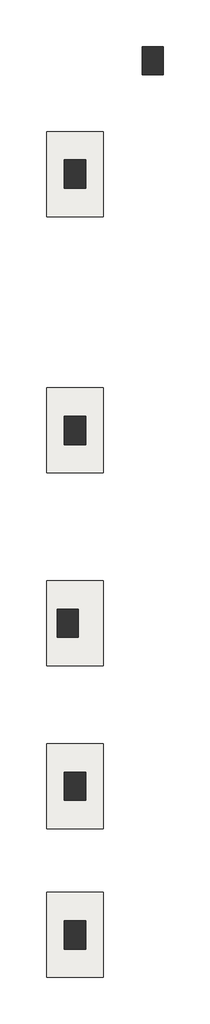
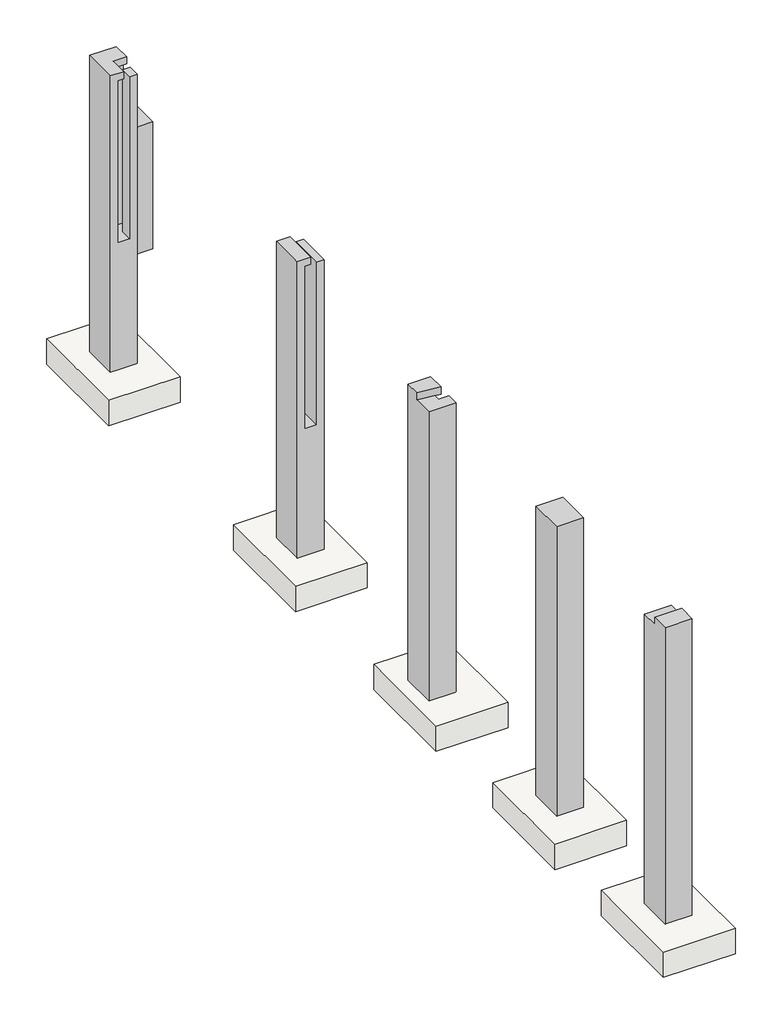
# One storey: 6 columns, 5 slabs.
"""IFC4 building model written with IfcOpenShell, lengths in millimetres."""

from ifc_helpers import new_model, si_unit, frame, origin, place, context, project, spatial, polyline, circle_curve, outline, extrude, faceted_brep, transform, mapped, element, save
from ifc_brep_helpers import plane_surface, revolved_surface, advanced_brep
from components import concrete_rectangular_column_18_x_24_770e3ad4, slab_5ba74754

model = new_model("IFC4")

# Units and contexts
model_context = context("Model", 3, world=origin())
ifc_project = project(units=[si_unit("LENGTHUNIT", "METRE", prefix="MILLI")], contexts=[model_context])

# Site, building, storey
site = spatial("IfcSite", under=ifc_project)
building = spatial("IfcBuilding", under=site)
storey = spatial("IfcBuildingStorey", under=building, Name="Subgrade", Elevation=-2286.0)

# Columns
placement = place(None, origin())
element("IfcColumn", 1, ObjectType="Concrete-Rectangular-Column : 18 x 24", at=placement, inside=storey, context=model_context, shape_type="Brep", body=[
    faceted_brep([(-16004.2573223, 30120.1162395, -2286.0), (-16004.2573223, 29510.5162395, -2286.0), (-16461.4573223, 29510.5162395, -2286.0), (-16461.4573223, 30120.1162395, -2286.0), (-16004.2573223, 30120.1162395, 3048.0), (-16004.2573223, 29815.3162395, 3048.0), (-16004.2573223, 29815.3162395, 2921.0), (-16004.2573223, 29916.9162395, 2921.0), (-16004.2573223, 29916.9162395, 0.0), (-16004.2573223, 29713.7162395, 0.0), (-16004.2573223, 29713.7162395, 2921.0), (-16004.2573223, 29510.5162395, 2921.0), (-16131.2573223, 29510.5162395, 2921.0), (-16131.2573223, 29510.5162395, 0.0), (-16334.4573223, 29510.5162395, 0.0), (-16334.4573223, 29510.5162395, 2921.0), (-16232.8573223, 29510.5162395, 2921.0), (-16232.8573223, 29510.5162395, 3048.0), (-16461.4573223, 29510.5162395, 3048.0), (-16461.4573223, 30120.1162395, 3048.0), (-16232.8573223, 29815.3162395, 3048.0), (-16334.4573223, 29916.9162395, 0.0), (-16334.4573223, 29916.9162395, 2921.0), (-16334.4573223, 29815.3162395, 2921.0), (-16131.2573223, 29713.7162395, 2921.0), (-16131.2573223, 29713.7162395, 0.0), (-16131.2573223, 29916.9162395, 0.0), (-16131.2573223, 29916.9162395, 2921.0), (-16232.8573223, 29916.9162395, 2921.0), (-16232.8573223, 29815.3162395, 2921.0), (-16131.2573223, 29815.3162395, 2921.0)], [[[0, 1, 2, 3]], [[1, 0, 4, 5, 6, 7, 8, 9, 10, 11]], [[2, 1, 11, 12, 13, 14, 15, 16, 17, 18]], [[3, 2, 18, 19]], [[0, 3, 19, 4]], [[19, 18, 17, 20, 5, 4]], [[21, 22, 23, 15, 14]], [[13, 12, 24, 25]], [[22, 21, 26, 8, 7, 27, 28]], [[10, 9, 25, 24]], [[11, 10, 24, 12]], [[20, 29, 30, 6, 5]], [[29, 20, 17, 16]], [[23, 29, 16, 15]], [[29, 28, 27, 7, 6, 30]], [[23, 22, 28, 29]], [[21, 14, 13, 25, 9, 8, 26]]]),
])
element("IfcColumn", 2, ObjectType="Concrete-Rectangular-Column : 18 x 24", at=placement, inside=storey, context=model_context, shape_type="SweptSolid", body=[
    extrude(outline(polyline([(-2286.0, -16461.4573223), (-2286.0, -16004.2573223), (2921.0, -16004.2573223), (2921.0, -16131.2573223), (0.0, -16131.2573223), (0.0, -16334.4573223), (2921.0, -16334.4573223), (2921.0, -16232.8573223), (3048.0, -16232.8573223), (3048.0, -16461.4573223), (-2286.0, -16461.4573223)])), frame((0.0, 23995.7513453, 0.0), z_axis=(0.0, 1.0, 0.0), x_axis=(0.0, 0.0, 1.0)), (0.0, 0.0, 1.0), 609.6),
])
element("IfcColumn", 3, ObjectType="Concrete-Rectangular-Column : 18 x 24", at=placement, inside=storey, context=model_context, shape_type="AdvancedBrep", body=[
    advanced_brep(
    [(-16156.6573223, 20456.1383993, -2286.0), (-16156.6573223, 19846.5383993, -2286.0), (-16613.8573223, 19846.5383993, -2286.0), (-16613.8573223, 20456.1383993, -2286.0), (-16156.6573223, 20456.1383993, 0.0), (-16156.6573223, 20049.7383993, 0.0), (-16156.6573223, 20049.7383993, 2921.0), (-16156.6573223, 19846.5383993, 2921.0), (-16613.8573223, 19846.5383993, 2921.0), (-16613.8573223, 20196.0548274, 2921.0), (-16613.8573223, 20196.0548274, 3048.0), (-16613.8573223, 20456.1383993, 3048.0), (-16232.8573223, 20456.1383993, 3048.0), (-16232.8573223, 20456.1383993, 2921.0), (-16334.4573223, 20456.1383993, 2921.0), (-16334.4573223, 20456.1383993, 0.0), (-16232.8573223, 20151.3383993, 3048.0), (-16334.4573223, 20167.5689688, 2921.0), (-16334.4573223, 20049.7383993, 2921.0), (-16334.4573223, 20049.7383993, 0.0), (-16232.8573223, 20151.3383993, 2921.0)],
    [
        (0, 1),
        (1, 2),
        (2, 3),
        (3, 0),
        (0, 4),
        (4, 5),
        (5, 6),
        (6, 7),
        (7, 1),
        (7, 8),
        (8, 2),
        (8, 9),
        (9, 10),
        (10, 11),
        (11, 3),
        (11, 12),
        (12, 13),
        (13, 14),
        (14, 15),
        (15, 4),
        (10, 16, circle_curve(frame((-16816.5048872, 16823.9383993, 3048.0), z_axis=(0.0, 0.0, -1.0), x_axis=(1.0, 0.0, 0.0)), 3378.2)),
        (16, 12),
        (14, 17),
        (17, 18),
        (18, 19),
        (19, 15),
        (17, 9, circle_curve(frame((-16816.5048872, 16823.9383993, 2921.0), z_axis=(0.0, 0.0, 1.0), x_axis=(1.0, 0.0, 0.0)), 3378.2)),
        (6, 18),
        (20, 16),
        (17, 20, circle_curve(frame((-16816.5048872, 16823.9383993, 2921.0), z_axis=(0.0, 0.0, -1.0), x_axis=(1.0, 0.0, 0.0)), 3378.2)),
        (20, 13),
        (5, 19),
    ],
    [
        plane_surface(frame((-16613.8573223, 20456.1383993, -2286.0), z_axis=(0.0, 0.0, -1.0), x_axis=(1.0, 0.0, 0.0))),
        plane_surface(frame((-16156.6573223, 19846.5383993, 3048.0), z_axis=(1.0, 0.0, 0.0), x_axis=(0.0, 0.0, -1.0))),
        plane_surface(frame((-16613.8573223, 19846.5383993, 3048.0), z_axis=(0.0, -1.0, 0.0), x_axis=(0.0, 0.0, -1.0))),
        plane_surface(frame((-16613.8573223, 20456.1383993, 3048.0), z_axis=(-1.0, 0.0, 0.0), x_axis=(0.0, 0.0, -1.0))),
        plane_surface(frame((-16156.6573223, 20456.1383993, 3048.0), z_axis=(0.0, 1.0, 0.0), x_axis=(0.0, 0.0, -1.0))),
        plane_surface(frame((-16613.8573223, 20456.1383993, 3048.0), z_axis=(0.0, 0.0, 1.0), x_axis=(-1.0, 0.0, 0.0))),
        plane_surface(frame((-16334.4573223, 29815.3162395, 0.0), z_axis=(1.0, 0.0, 0.0), x_axis=(0.0, -1.0, 0.0))),
        plane_surface(frame((-6631.6573223, 29815.3162395, 2921.0), z_axis=(0.0, 0.0, 1.0), x_axis=(1.0, 0.0, 0.0))),
        revolved_surface(polyline([(-13438.3048872, 16823.9383993, 2921.0), (-13438.3048872, 16823.9383993, 3048.0)]), (-16816.5048872, 16823.9383993, 3048.0), (0.0, 0.0, -1.0)),
        plane_surface(frame((-16232.8573223, 20151.3383993, 2921.0), z_axis=(1.0, 0.0, 0.0), x_axis=(0.0, 0.0, 1.0))),
        plane_surface(frame((-16232.8573223, 20049.7383993, 0.0), z_axis=(0.0, 1.0, 0.0), x_axis=(1.0, 0.0, 0.0))),
        plane_surface(frame((-16334.4573223, 20151.3383993, 2921.0), z_axis=(0.0, 0.0, -1.0), x_axis=(1.0, 0.0, 0.0))),
        plane_surface(frame((-16334.4573223, 29815.3162395, 0.0), z_axis=(0.0, 0.0, 1.0), x_axis=(1.0, 0.0, 0.0))),
    ],
    [
        (0, [[1, 2, 3, 4]]),
        (1, [[-1, 5, 6, 7, 8, 9]]),
        (2, [[-2, -9, 10, 11]]),
        (3, [[-3, -11, 12, 13, 14, 15]]),
        (4, [[-4, -15, 16, 17, 18, 19, 20, -5]]),
        (5, [[-16, -14, 21, 22]]),
        (6, [[-19, 23, 24, 25, 26]]),
        (7, [[27, -12, -10, -8, 28, -24]]),
        (8, [[29, -21, -13, -27, 30]]),
        (9, [[-29, 31, -17, -22]]),
        (10, [[-25, -28, -7, 32]]),
        (11, [[-23, -18, -31, -30]]),
        (12, [[-26, -32, -6, -20]]),
    ],
),
])
element("IfcColumn", 4, ObjectType="Concrete-Rectangular-Column : 18 x 24", at=placement, inside=storey, context=model_context, shape_type="SweptSolid", body=[
    extrude(outline(polyline([(13750.5383993, -2286.0), (13140.9383993, -2286.0), (13140.9383993, 3048.0), (13445.7383993, 3048.0), (13445.7383993, 2921.0), (13750.5383993, 2921.0), (13750.5383993, -2286.0)])), frame((-16461.4573223, 0.0, 0.0), z_axis=(1.0, 0.0, 0.0), x_axis=(0.0, 1.0, 0.0)), (0.0, 0.0, 1.0), 457.2),
])
element("IfcColumn", 5, ObjectType="Concrete-Rectangular-Column : 18 x 24", at=placement, inside=storey, context=model_context, shape_type="SweptSolid", body=[
    extrude(outline(polyline([(-16004.2573223, 16950.9383993), (-16004.2573223, 16341.3383993), (-16461.4573223, 16341.3383993), (-16461.4573223, 16950.9383993), (-16004.2573223, 16950.9383993)])), frame((0.0, 0.0, -2286.0), z_axis=(0.0, 0.0, 1.0), x_axis=(1.0, 0.0, 0.0)), (0.0, 0.0, 1.0), 5207.0),
])
concrete_rectangular_column_18_x_24_shape = concrete_rectangular_column_18_x_24_770e3ad4(model_context)
element("IfcColumn", 6, ObjectType="Concrete-Rectangular-Column : 18 x 24", at=placement, inside=storey, context=model_context, shape_type="MappedRepresentation", body=[
    mapped(concrete_rectangular_column_18_x_24_shape, transform((-14556.4573223, 32253.7162395, 0.0), x_axis=(1.0, 0.0, 0.0), y_axis=(0.0, 1.0, 0.0), z_axis=(0.0, 0.0, 1.0))),
])

# Slabs
slab_shape = slab_5ba74754(model_context)
element("IfcSlab", 7, ObjectType="Footing-Rectangular : 72\" x 48\" x 18\"", at=placement, inside=storey, context=model_context, shape_type="MappedRepresentation", body=[
    mapped(slab_shape, transform((-16232.8573223, 29815.3162395, -2286.0), x_axis=(1.0, 0.0, 0.0), y_axis=(0.0, 1.0, 0.0), z_axis=(0.0, 0.0, 1.0))),
])
element("IfcSlab", 8, ObjectType="Footing-Rectangular : 72\" x 48\" x 18\"", at=placement, inside=storey, context=model_context, shape_type="MappedRepresentation", body=[
    mapped(slab_shape, transform((-16232.8573223, 24300.5513453, -2286.0), x_axis=(1.0, 0.0, 0.0), y_axis=(0.0, 1.0, 0.0), z_axis=(0.0, 0.0, 1.0))),
])
element("IfcSlab", 9, ObjectType="Footing-Rectangular : 72\" x 48\" x 18\"", at=placement, inside=storey, context=model_context, shape_type="MappedRepresentation", body=[
    mapped(slab_shape, transform((-16232.8573223, 20151.3383993, -2286.0), x_axis=(1.0, 0.0, 0.0), y_axis=(0.0, 1.0, 0.0), z_axis=(0.0, 0.0, 1.0))),
])
element("IfcSlab", 10, ObjectType="Footing-Rectangular : 72\" x 48\" x 18\"", at=placement, inside=storey, context=model_context, shape_type="MappedRepresentation", body=[
    mapped(slab_shape, transform((-16232.8573223, 16646.1383993, -2286.0), x_axis=(1.0, 0.0, 0.0), y_axis=(0.0, 1.0, 0.0), z_axis=(0.0, 0.0, 1.0))),
])
element("IfcSlab", 11, ObjectType="Footing-Rectangular : 72\" x 48\" x 18\"", at=placement, inside=storey, context=model_context, shape_type="MappedRepresentation", body=[
    mapped(slab_shape, transform((-16232.8573223, 13445.7383993, -2286.0), x_axis=(1.0, 0.0, 0.0), y_axis=(0.0, 1.0, 0.0), z_axis=(0.0, 0.0, 1.0))),
])

save(model, "model.ifc")
